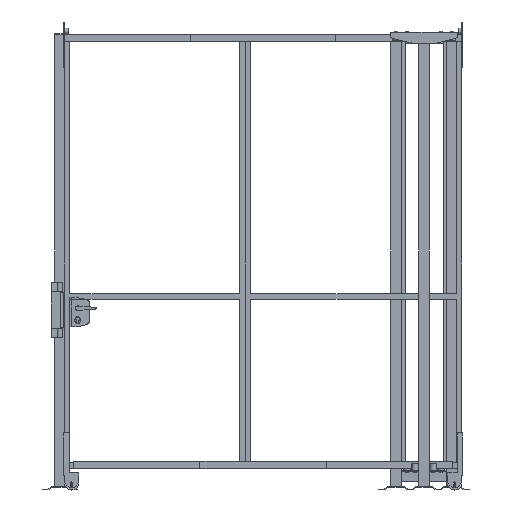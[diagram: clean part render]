
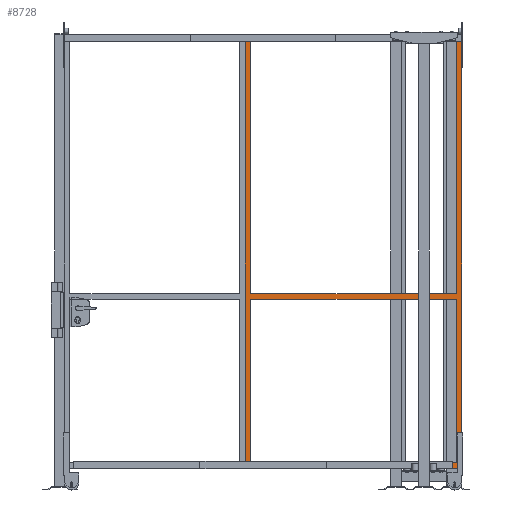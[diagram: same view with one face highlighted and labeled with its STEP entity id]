
A CAD part, front view. The second image highlights one B-rep face of the part: STEP entity #8728.
In plain terms, the highlighted planar face has unit normal (0, -1, 0).
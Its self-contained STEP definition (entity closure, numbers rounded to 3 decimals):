
#956=FACE_BOUND('',#1473,.T.);
#957=FACE_BOUND('',#1474,.T.);
#1008=FACE_OUTER_BOUND('',#1472,.T.);
#1472=EDGE_LOOP('',(#6133,#6134,#6135,#6136));
#1473=EDGE_LOOP('',(#6137,#6138,#6139,#6140));
#1474=EDGE_LOOP('',(#6141,#6142,#6143,#6144));
#1983=LINE('',#12405,#3130);
#1989=LINE('',#12417,#3136);
#1990=LINE('',#12420,#3137);
#1993=LINE('',#12427,#3140);
#1994=LINE('',#12429,#3141);
#1995=LINE('',#12431,#3142);
#1996=LINE('',#12432,#3143);
#1997=LINE('',#12434,#3144);
#1998=LINE('',#12436,#3145);
#1999=LINE('',#12437,#3146);
#2000=LINE('',#12439,#3147);
#2001=LINE('',#12440,#3148);
#3130=VECTOR('',#9914,1.);
#3136=VECTOR('',#9922,1.);
#3137=VECTOR('',#9925,1.);
#3140=VECTOR('',#9930,1.);
#3141=VECTOR('',#9931,1.);
#3142=VECTOR('',#9932,1.);
#3143=VECTOR('',#9933,1.);
#3144=VECTOR('',#9934,1.);
#3145=VECTOR('',#9935,1.);
#3146=VECTOR('',#9936,1.);
#3147=VECTOR('',#9937,1.);
#3148=VECTOR('',#9938,1.);
#4276=VERTEX_POINT('',#12401);
#4278=VERTEX_POINT('',#12404);
#4281=VERTEX_POINT('',#12411);
#4283=VERTEX_POINT('',#12415);
#4284=VERTEX_POINT('',#12419);
#4286=VERTEX_POINT('',#12425);
#4287=VERTEX_POINT('',#12426);
#4288=VERTEX_POINT('',#12428);
#4289=VERTEX_POINT('',#12430);
#4290=VERTEX_POINT('',#12433);
#4291=VERTEX_POINT('',#12435);
#4292=VERTEX_POINT('',#12438);
#5019=EDGE_CURVE('',#4276,#4278,#1983,.T.);
#5025=EDGE_CURVE('',#4283,#4281,#1989,.T.);
#5026=EDGE_CURVE('',#4284,#4281,#1990,.T.);
#5029=EDGE_CURVE('',#4286,#4287,#1993,.T.);
#5030=EDGE_CURVE('',#4288,#4287,#1994,.T.);
#5031=EDGE_CURVE('',#4289,#4288,#1995,.T.);
#5032=EDGE_CURVE('',#4286,#4289,#1996,.T.);
#5033=EDGE_CURVE('',#4276,#4290,#1997,.T.);
#5034=EDGE_CURVE('',#4290,#4291,#1998,.T.);
#5035=EDGE_CURVE('',#4291,#4278,#1999,.T.);
#5036=EDGE_CURVE('',#4283,#4292,#2000,.T.);
#5037=EDGE_CURVE('',#4292,#4284,#2001,.T.);
#6133=ORIENTED_EDGE('',*,*,#5029,.T.);
#6134=ORIENTED_EDGE('',*,*,#5030,.F.);
#6135=ORIENTED_EDGE('',*,*,#5031,.F.);
#6136=ORIENTED_EDGE('',*,*,#5032,.F.);
#6137=ORIENTED_EDGE('',*,*,#5033,.T.);
#6138=ORIENTED_EDGE('',*,*,#5034,.T.);
#6139=ORIENTED_EDGE('',*,*,#5035,.T.);
#6140=ORIENTED_EDGE('',*,*,#5019,.F.);
#6141=ORIENTED_EDGE('',*,*,#5025,.F.);
#6142=ORIENTED_EDGE('',*,*,#5036,.T.);
#6143=ORIENTED_EDGE('',*,*,#5037,.T.);
#6144=ORIENTED_EDGE('',*,*,#5026,.T.);
#8330=PLANE('',#9240);
#8728=ADVANCED_FACE('',(#1008,#956,#957),#8330,.F.);
#9240=AXIS2_PLACEMENT_3D('',#12424,#9928,#9929);
#9914=DIRECTION('',(1.,0.,0.));
#9922=DIRECTION('',(-1.,0.,0.));
#9925=DIRECTION('',(0.,0.,1.));
#9928=DIRECTION('center_axis',(0.,1.,0.));
#9929=DIRECTION('ref_axis',(0.,0.,1.));
#9930=DIRECTION('',(0.,0.,-1.));
#9931=DIRECTION('',(-1.,0.,0.));
#9932=DIRECTION('',(0.,0.,-1.));
#9933=DIRECTION('',(1.,0.,0.));
#9934=DIRECTION('',(0.,0.,1.));
#9935=DIRECTION('',(1.,0.,0.));
#9936=DIRECTION('',(0.,0.,-1.));
#9937=DIRECTION('',(0.,0.,-1.));
#9938=DIRECTION('',(-1.,0.,0.));
#12401=CARTESIAN_POINT('',(30.,0.,965.));
#12404=CARTESIAN_POINT('',(1170.,0.,965.));
#12405=CARTESIAN_POINT('',(600.,0.,965.));
#12411=CARTESIAN_POINT('',(30.,0.,935.));
#12415=CARTESIAN_POINT('',(1170.,0.,935.));
#12417=CARTESIAN_POINT('',(600.,0.,935.));
#12419=CARTESIAN_POINT('',(30.,0.,30.));
#12420=CARTESIAN_POINT('',(30.,0.,1200.));
#12424=CARTESIAN_POINT('Origin',(600.,0.,1200.));
#12425=CARTESIAN_POINT('',(0.,0.,2400.));
#12426=CARTESIAN_POINT('',(0.,0.,0.));
#12427=CARTESIAN_POINT('',(0.,0.,1200.));
#12428=CARTESIAN_POINT('',(1200.,0.,0.));
#12429=CARTESIAN_POINT('',(600.,0.,0.));
#12430=CARTESIAN_POINT('',(1200.,0.,2400.));
#12431=CARTESIAN_POINT('',(1200.,0.,1200.));
#12432=CARTESIAN_POINT('',(600.,0.,2400.));
#12433=CARTESIAN_POINT('',(30.,0.,2370.));
#12434=CARTESIAN_POINT('',(30.,0.,1200.));
#12435=CARTESIAN_POINT('',(1170.,0.,2370.));
#12436=CARTESIAN_POINT('',(600.,0.,2370.));
#12437=CARTESIAN_POINT('',(1170.,0.,1200.));
#12438=CARTESIAN_POINT('',(1170.,0.,30.));
#12439=CARTESIAN_POINT('',(1170.,0.,1200.));
#12440=CARTESIAN_POINT('',(600.,0.,30.));
